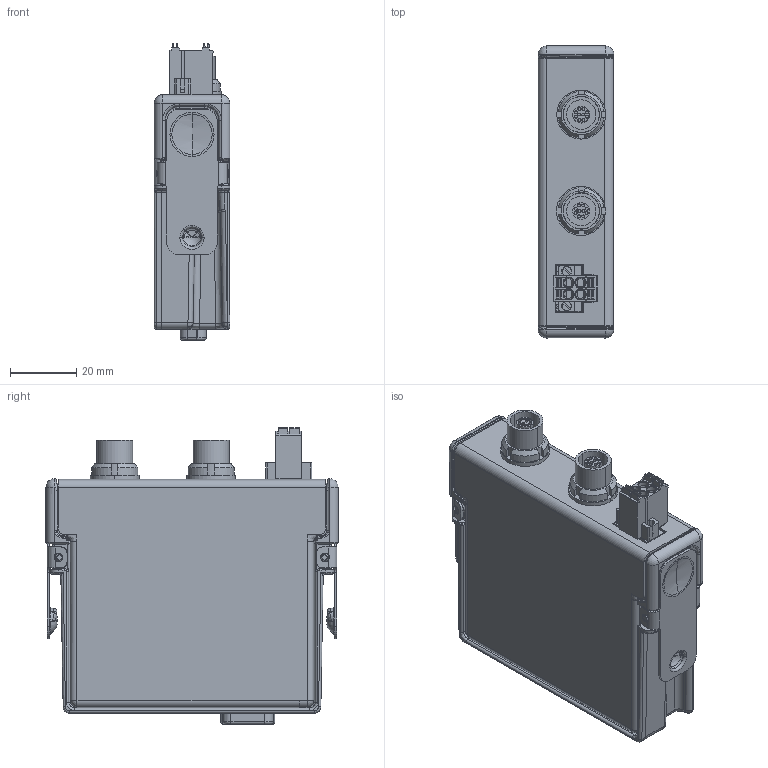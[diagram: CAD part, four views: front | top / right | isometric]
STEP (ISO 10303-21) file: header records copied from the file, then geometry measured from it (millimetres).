
FILE_DESCRIPTION((''),'2;1');
FILE_NAME('CU_NI-9218_LEMO','2016-02-23T',('dkendric'),(''),'PRO/ENGINEER BY PARAMETRIC TECHNOLOGY CORPORATION, 2015280','PRO/ENGINEER BY PARAMETRIC TECHNOLOGY CORPORATION, 2015280','');
FILE_SCHEMA(('CONFIG_CONTROL_DESIGN'));
Products named in the file (1): CU_NI-9218_LEMO
Bounding box: 22.86 x 88.11 x 89.48 mm (x, y, z)
Volume: 44804.8 mm3; surface area: 50753 mm2
Topology: 6 solids, 7 shells, 2332 faces, 5690 edges, 3429 vertices
Faces by surface type: plane 928, cylinder 795, bspline 368, cone 94, torus 80, sphere 59, extrusion 8
Entity records: 87974 total; most frequent: CARTESIAN_POINT 35910, ORIENTED_EDGE 11236, DIRECTION 10140, EDGE_CURVE 5618, AXIS2_PLACEMENT_3D 3594, VERTEX_POINT 3467, VECTOR 2952, LINE 2944
